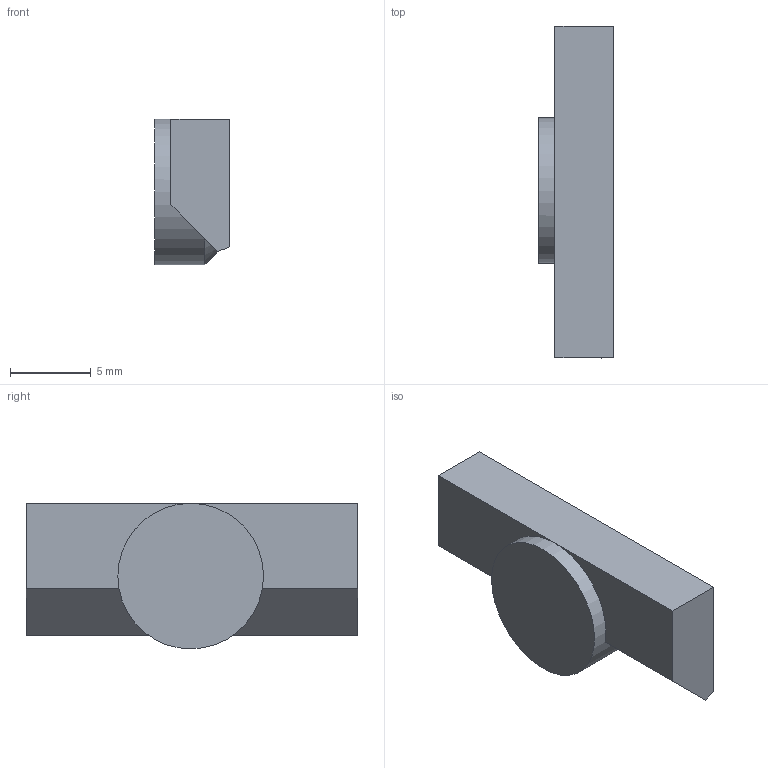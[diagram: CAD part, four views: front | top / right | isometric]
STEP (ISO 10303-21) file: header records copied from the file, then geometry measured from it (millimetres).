
FILE_DESCRIPTION(('HOOPS Exchange Step'),'2;1');
FILE_NAME('/private/var/mobile/Containers/Data/Application/3D331496-78D7-4D8A-96EF-C26D196FB948/tmp/export/temp_export','2026-09-20T20:48:27+19:00',('mobile'),('Shapr3D Limited'),'HOOPS Exchange 2026.3','Shapr3D','Authorized');
FILE_SCHEMA( ('AP242_MANAGED_MODEL_BASED_3D_ENGINEERING_MIM_LF {1 0 10303 442 1 1 4}') );
Length unit declared in the file: millimetre
Products named in the file (4): SS Plugs; Super Safe; SS Plug.step; root
Assembly tree (3 placements, depth 4):
  root
    SS Plug.step
      Super Safe
        SS Plugs
Bounding box: 4.6 x 20.5 x 9.01 mm (x, y, z)
Volume: 616.2 mm3; surface area: 545.4 mm2
Topology: 1 solids, 1 shells, 12 faces, 30 edges, 20 vertices
Faces by surface type: plane 10, cylinder 1, cone 1
Full cylindrical faces by diameter (mm): 9 x1
Entity records: 487 total; most frequent: CARTESIAN_POINT 101, DIRECTION 69, ORIENTED_EDGE 60, EDGE_CURVE 30, AXIS2_PLACEMENT_3D 25, VERTEX_POINT 20, VECTOR 19, LINE 19
